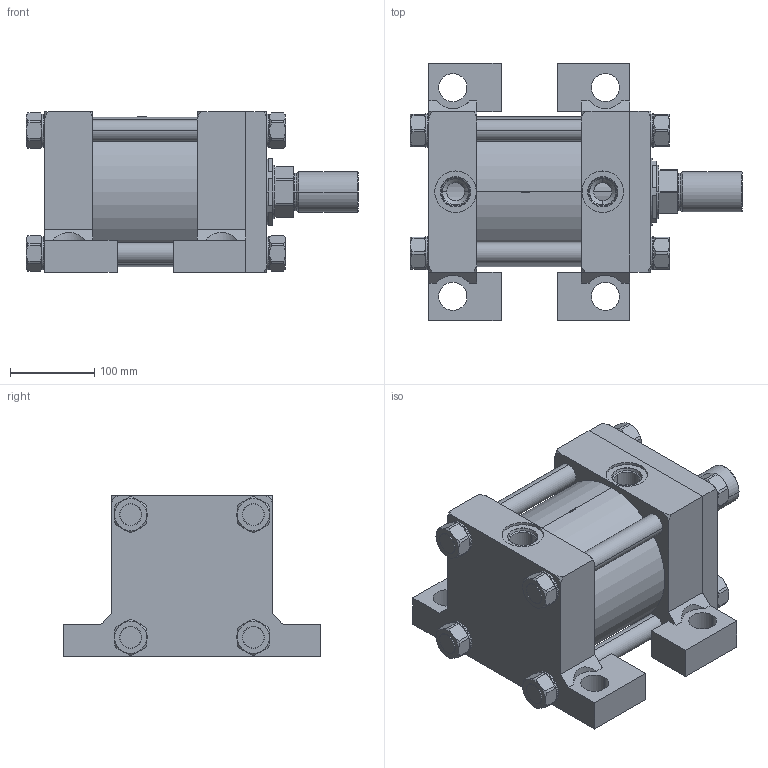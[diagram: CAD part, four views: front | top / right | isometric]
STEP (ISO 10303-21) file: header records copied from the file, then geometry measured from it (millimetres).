
FILE_DESCRIPTION (( 'STEP AP214' ), '1' );
FILE_NAME ('6.00C2HHNAT114A2.000.step', '2026-03-26T21:13:19', ( '' ), ( '' ), 'SwSTEP 2.0', 'SolidWorks 2023', '' );
FILE_SCHEMA (( 'AUTOMOTIVE_DESIGN' ));
Length unit declared in the file: inch
Products named in the file (1): 6.00C2HHNAT114A2.000
Bounding box: 393.7 x 304.8 x 190.5 mm (x, y, z)
Volume: 8441942.1 mm3; surface area: 937098.2 mm2
Topology: 44 solids, 44 shells, 1215 faces, 3133 edges, 2014 vertices
Faces by surface type: plane 789, cylinder 221, cone 163, bspline 34, torus 8
Entity records: 55060 total; most frequent: CARTESIAN_POINT 10965, ORIENTED_EDGE 6266, DIRECTION 5135, EDGE_CURVE 3133, VERTEX_POINT 2014, AXIS2_PLACEMENT_3D 1742, VECTOR 1651, LINE 1651
